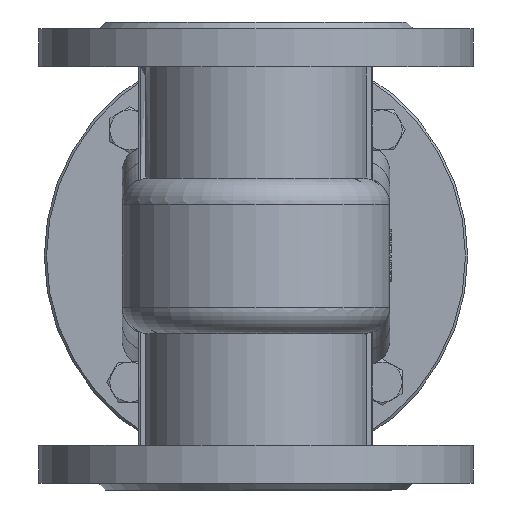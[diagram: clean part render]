
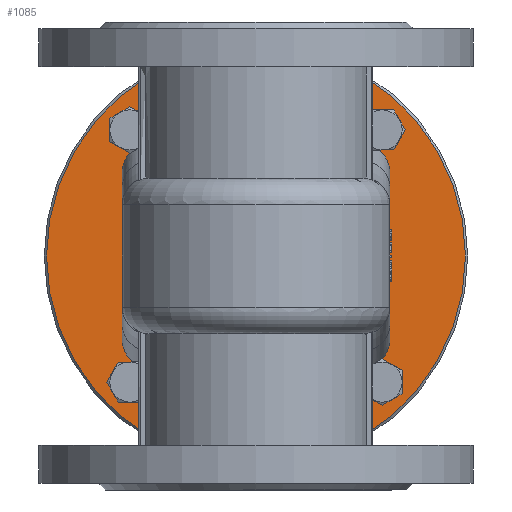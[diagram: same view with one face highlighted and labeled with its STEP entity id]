
A CAD part, front view. The second image highlights one B-rep face of the part: STEP entity #1085.
In plain terms, the highlighted planar face has unit normal (0, -1, 0).
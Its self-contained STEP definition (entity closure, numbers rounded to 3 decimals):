
#1085=ADVANCED_FACE('',(#6773,#6775),#6777,.F.);
#6773=FACE_BOUND('',#6774,.T.);
#6774=EDGE_LOOP('',(#12515));
#6775=FACE_BOUND('',#6776,.T.);
#6776=EDGE_LOOP('',(#12516,#12517,#12518,#12519,#12520,#12521,#12522,#12523,#12524,
#12525,#12526,#12527,#12528,#12529,#12530,#12531));
#6777=PLANE('',#6778);
#6778=AXIS2_PLACEMENT_3D('',#6779,#6780,#6781);
#6779=CARTESIAN_POINT('',(0.,130.,0.));
#6780=DIRECTION('',(0.,1.,0.));
#6781=DIRECTION('',(0.,0.,1.));
#12515=ORIENTED_EDGE('',*,*,#15308,.F.);
#12516=ORIENTED_EDGE('',*,*,#15309,.F.);
#12517=ORIENTED_EDGE('',*,*,#15295,.F.);
#12518=ORIENTED_EDGE('',*,*,#15310,.F.);
#12519=ORIENTED_EDGE('',*,*,#15311,.F.);
#12520=ORIENTED_EDGE('',*,*,#15312,.F.);
#12521=ORIENTED_EDGE('',*,*,#15224,.F.);
#12522=ORIENTED_EDGE('',*,*,#15304,.T.);
#12523=ORIENTED_EDGE('',*,*,#15313,.F.);
#12524=ORIENTED_EDGE('',*,*,#15305,.T.);
#12525=ORIENTED_EDGE('',*,*,#15285,.T.);
#12526=ORIENTED_EDGE('',*,*,#15314,.T.);
#12527=ORIENTED_EDGE('',*,*,#15315,.F.);
#12528=ORIENTED_EDGE('',*,*,#15316,.T.);
#12529=ORIENTED_EDGE('',*,*,#15233,.F.);
#12530=ORIENTED_EDGE('',*,*,#15317,.F.);
#12531=ORIENTED_EDGE('',*,*,#15318,.F.);
#15224=EDGE_CURVE('',#16912,#16914,#16915,.T.);
#15233=EDGE_CURVE('',#16924,#16927,#16928,.T.);
#15285=EDGE_CURVE('',#17028,#17026,#17029,.T.);
#15295=EDGE_CURVE('',#17039,#17037,#17041,.T.);
#15304=EDGE_CURVE('',#16912,#17053,#17055,.T.);
#15305=EDGE_CURVE('',#17056,#17028,#17057,.T.);
#15308=EDGE_CURVE('',#17061,#17061,#17062,.T.);
#15309=EDGE_CURVE('',#17037,#17063,#17064,.T.);
#15310=EDGE_CURVE('',#17065,#17039,#17066,.T.);
#15311=EDGE_CURVE('',#17067,#17065,#17068,.F.);
#15312=EDGE_CURVE('',#16914,#17067,#17069,.T.);
#15313=EDGE_CURVE('',#17056,#17053,#17070,.F.);
#15314=EDGE_CURVE('',#17026,#17071,#17072,.T.);
#15315=EDGE_CURVE('',#17073,#17071,#17074,.F.);
#15316=EDGE_CURVE('',#17073,#16927,#17075,.T.);
#15317=EDGE_CURVE('',#17076,#16924,#17077,.T.);
#15318=EDGE_CURVE('',#17063,#17076,#17078,.F.);
#16912=VERTEX_POINT('',#20907);
#16914=VERTEX_POINT('',#20911);
#16915=LINE('',#20912,#20913);
#16924=VERTEX_POINT('',#20938);
#16927=VERTEX_POINT('',#20943);
#16928=LINE('',#20944,#20945);
#17026=VERTEX_POINT('',#21781);
#17028=VERTEX_POINT('',#21785);
#17029=LINE('',#21786,#21787);
#17037=VERTEX_POINT('',#21839);
#17039=VERTEX_POINT('',#21843);
#17041=LINE('',#21847,#21848);
#17053=VERTEX_POINT('',#21878);
#17055=(BOUNDED_CURVE()B_SPLINE_CURVE(3,
(#21898,#21899,#21900,#21901),
.UNSPECIFIED.,.F.,.F.)B_SPLINE_CURVE_WITH_KNOTS((4,4),
(0.,1.),
.UNSPECIFIED.)CURVE()GEOMETRIC_REPRESENTATION_ITEM()RATIONAL_B_SPLINE_CURVE((1.,
0.926,0.926,1.))REPRESENTATION_ITEM(''));
#17056=VERTEX_POINT('',#21902);
#17057=(BOUNDED_CURVE()B_SPLINE_CURVE(3,
(#21903,#21904,#21905,#21906),
.UNSPECIFIED.,.F.,.F.)B_SPLINE_CURVE_WITH_KNOTS((4,4),
(0.,1.),
.UNSPECIFIED.)CURVE()GEOMETRIC_REPRESENTATION_ITEM()RATIONAL_B_SPLINE_CURVE((1.,
0.995,0.995,1.))REPRESENTATION_ITEM(''));
#17061=VERTEX_POINT('',#21930);
#17062=CIRCLE('',#21931,94.);
#17063=VERTEX_POINT('',#21935);
#17064=(BOUNDED_CURVE()B_SPLINE_CURVE(3,
(#21936,#21937,#21938,#21939),
.UNSPECIFIED.,.F.,.F.)B_SPLINE_CURVE_WITH_KNOTS((4,4),
(0.,1.),
.UNSPECIFIED.)CURVE()GEOMETRIC_REPRESENTATION_ITEM()RATIONAL_B_SPLINE_CURVE((1.,
0.995,0.995,1.))REPRESENTATION_ITEM(''));
#17065=VERTEX_POINT('',#21940);
#17066=(BOUNDED_CURVE()B_SPLINE_CURVE(3,
(#21941,#21942,#21943,#21944),
.UNSPECIFIED.,.F.,.F.)B_SPLINE_CURVE_WITH_KNOTS((4,4),
(0.,1.),
.UNSPECIFIED.)CURVE()GEOMETRIC_REPRESENTATION_ITEM()RATIONAL_B_SPLINE_CURVE((1.,
0.995,0.995,1.))REPRESENTATION_ITEM(''));
#17067=VERTEX_POINT('',#21945);
#17068=CIRCLE('',#21946,9.);
#17069=(BOUNDED_CURVE()B_SPLINE_CURVE(3,
(#21950,#21951,#21952,#21953),
.UNSPECIFIED.,.F.,.F.)B_SPLINE_CURVE_WITH_KNOTS((4,4),
(0.,1.),
.UNSPECIFIED.)CURVE()GEOMETRIC_REPRESENTATION_ITEM()RATIONAL_B_SPLINE_CURVE((1.,
0.926,0.926,1.))REPRESENTATION_ITEM(''));
#17070=CIRCLE('',#21954,9.);
#17071=VERTEX_POINT('',#21958);
#17072=(BOUNDED_CURVE()B_SPLINE_CURVE(3,
(#21959,#21960,#21961,#21962),
.UNSPECIFIED.,.F.,.F.)B_SPLINE_CURVE_WITH_KNOTS((4,4),
(0.,1.),
.UNSPECIFIED.)CURVE()GEOMETRIC_REPRESENTATION_ITEM()RATIONAL_B_SPLINE_CURVE((1.,
0.995,0.995,1.))REPRESENTATION_ITEM(''));
#17073=VERTEX_POINT('',#21963);
#17074=CIRCLE('',#21964,9.);
#17075=(BOUNDED_CURVE()B_SPLINE_CURVE(3,
(#21968,#21969,#21970,#21971),
.UNSPECIFIED.,.F.,.F.)B_SPLINE_CURVE_WITH_KNOTS((4,4),
(0.,1.),
.UNSPECIFIED.)CURVE()GEOMETRIC_REPRESENTATION_ITEM()RATIONAL_B_SPLINE_CURVE((1.,
0.926,0.926,1.))REPRESENTATION_ITEM(''));
#17076=VERTEX_POINT('',#21972);
#17077=(BOUNDED_CURVE()B_SPLINE_CURVE(3,
(#21973,#21974,#21975,#21976),
.UNSPECIFIED.,.F.,.F.)B_SPLINE_CURVE_WITH_KNOTS((4,4),
(0.,1.),
.UNSPECIFIED.)CURVE()GEOMETRIC_REPRESENTATION_ITEM()RATIONAL_B_SPLINE_CURVE((1.,
0.926,0.926,1.))REPRESENTATION_ITEM(''));
#17078=CIRCLE('',#21977,9.);
#20907=CARTESIAN_POINT('',(-60.,130.,37.631));
#20911=CARTESIAN_POINT('',(-60.,130.,-37.631));
#20912=CARTESIAN_POINT('',(-60.,130.,37.631));
#20913=VECTOR('',#20914,1.);
#20914=DIRECTION('',(0.,0.,-1.));
#20938=CARTESIAN_POINT('',(60.,130.,-37.631));
#20943=CARTESIAN_POINT('',(60.,130.,37.631));
#20944=CARTESIAN_POINT('',(60.,130.,-37.631));
#20945=VECTOR('',#20946,1.);
#20946=DIRECTION('',(0.,0.,1.));
#21781=CARTESIAN_POINT('',(48.,130.,50.));
#21785=CARTESIAN_POINT('',(-48.,130.,50.));
#21786=CARTESIAN_POINT('',(-48.,130.,50.));
#21787=VECTOR('',#21788,1.);
#21788=DIRECTION('',(1.,0.,0.));
#21839=CARTESIAN_POINT('',(48.,130.,-50.));
#21843=CARTESIAN_POINT('',(-48.,130.,-50.));
#21847=CARTESIAN_POINT('',(-48.,130.,-50.));
#21848=VECTOR('',#21849,1.);
#21849=DIRECTION('',(1.,0.,0.));
#21878=CARTESIAN_POINT('',(-54.948,130.,47.716));
#21898=CARTESIAN_POINT('',(-60.,130.,37.631));
#21899=CARTESIAN_POINT('',(-60.,130.,41.718));
#21900=CARTESIAN_POINT('',(-58.181,130.,45.349));
#21901=CARTESIAN_POINT('',(-54.948,130.,47.716));
#21902=CARTESIAN_POINT('',(-50.803,130.,49.658));
#21903=CARTESIAN_POINT('',(-50.803,130.,49.658));
#21904=CARTESIAN_POINT('',(-49.884,130.,49.885));
#21905=CARTESIAN_POINT('',(-48.945,130.,50.));
#21906=CARTESIAN_POINT('',(-48.,130.,50.));
#21930=CARTESIAN_POINT('',(94.,130.,0.));
#21931=AXIS2_PLACEMENT_3D('',#21932,#21933,#21934);
#21932=CARTESIAN_POINT('',(0.,130.,0.));
#21933=DIRECTION('',(0.,1.,0.));
#21934=DIRECTION('',(1.,0.,0.));
#21935=CARTESIAN_POINT('',(50.803,130.,-49.658));
#21936=CARTESIAN_POINT('',(48.,130.,-50.));
#21937=CARTESIAN_POINT('',(48.945,130.,-50.));
#21938=CARTESIAN_POINT('',(49.884,130.,-49.885));
#21939=CARTESIAN_POINT('',(50.803,130.,-49.658));
#21940=CARTESIAN_POINT('',(-50.803,130.,-49.658));
#21941=CARTESIAN_POINT('',(-50.803,130.,-49.658));
#21942=CARTESIAN_POINT('',(-49.884,130.,-49.885));
#21943=CARTESIAN_POINT('',(-48.945,130.,-50.));
#21944=CARTESIAN_POINT('',(-48.,130.,-50.));
#21945=CARTESIAN_POINT('',(-54.948,130.,-47.716));
#21946=AXIS2_PLACEMENT_3D('',#21947,#21948,#21949);
#21947=CARTESIAN_POINT('',(-56.569,130.,-56.569));
#21948=DIRECTION('',(0.,1.,0.));
#21949=DIRECTION('',(0.641,0.,0.768));
#21950=CARTESIAN_POINT('',(-60.,130.,-37.631));
#21951=CARTESIAN_POINT('',(-60.,130.,-41.718));
#21952=CARTESIAN_POINT('',(-58.181,130.,-45.349));
#21953=CARTESIAN_POINT('',(-54.948,130.,-47.716));
#21954=AXIS2_PLACEMENT_3D('',#21955,#21956,#21957);
#21955=CARTESIAN_POINT('',(-56.569,130.,56.569));
#21956=DIRECTION('',(0.,1.,0.));
#21957=DIRECTION('',(0.18,0.,-0.984));
#21958=CARTESIAN_POINT('',(50.803,130.,49.658));
#21959=CARTESIAN_POINT('',(48.,130.,50.));
#21960=CARTESIAN_POINT('',(48.945,130.,50.));
#21961=CARTESIAN_POINT('',(49.884,130.,49.885));
#21962=CARTESIAN_POINT('',(50.803,130.,49.658));
#21963=CARTESIAN_POINT('',(54.948,130.,47.716));
#21964=AXIS2_PLACEMENT_3D('',#21965,#21966,#21967);
#21965=CARTESIAN_POINT('',(56.569,130.,56.569));
#21966=DIRECTION('',(0.,1.,0.));
#21967=DIRECTION('',(-0.641,0.,-0.768));
#21968=CARTESIAN_POINT('',(54.948,130.,47.716));
#21969=CARTESIAN_POINT('',(58.181,130.,45.349));
#21970=CARTESIAN_POINT('',(60.,130.,41.718));
#21971=CARTESIAN_POINT('',(60.,130.,37.631));
#21972=CARTESIAN_POINT('',(54.948,130.,-47.716));
#21973=CARTESIAN_POINT('',(54.948,130.,-47.716));
#21974=CARTESIAN_POINT('',(58.181,130.,-45.349));
#21975=CARTESIAN_POINT('',(60.,130.,-41.718));
#21976=CARTESIAN_POINT('',(60.,130.,-37.631));
#21977=AXIS2_PLACEMENT_3D('',#21978,#21979,#21980);
#21978=CARTESIAN_POINT('',(56.569,130.,-56.569));
#21979=DIRECTION('',(0.,1.,0.));
#21980=DIRECTION('',(-0.18,0.,0.984));
